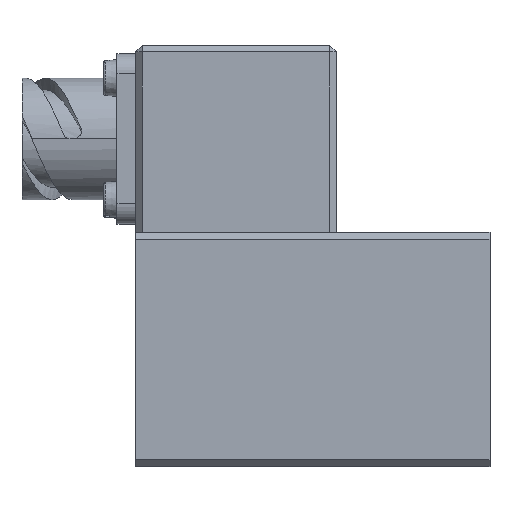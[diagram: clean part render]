
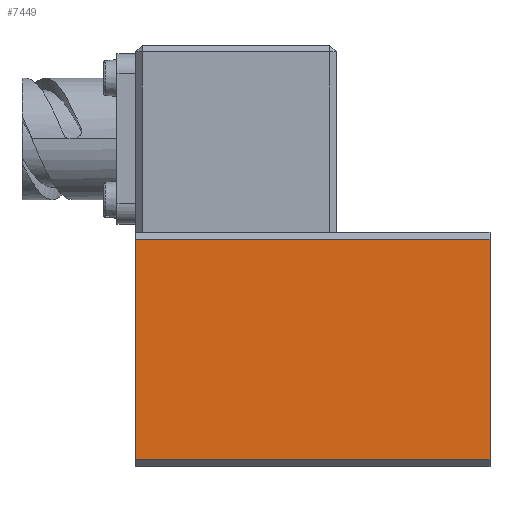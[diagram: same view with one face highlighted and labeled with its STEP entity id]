
A CAD part, top view. The second image highlights one B-rep face of the part: STEP entity #7449.
In plain terms, the highlighted planar face has unit normal (0, 0, 1).
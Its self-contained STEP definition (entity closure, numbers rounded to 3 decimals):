
#557 = ORIENTED_EDGE ( 'NONE', *, *, #9774, .T. ) ;
#818 = VECTOR ( 'NONE', #11657, 1000. ) ;
#907 = LINE ( 'NONE', #12213, #12432 ) ;
#2209 = VERTEX_POINT ( 'NONE', #9713 ) ;
#2232 = VECTOR ( 'NONE', #5881, 1000. ) ;
#2654 = EDGE_CURVE ( 'NONE', #5778, #5017, #12692, .T. ) ;
#2664 = DIRECTION ( 'NONE',  ( 1., 0., 0. ) ) ;
#4207 = EDGE_CURVE ( 'NONE', #8122, #5778, #14133, .T. ) ;
#4851 = ORIENTED_EDGE ( 'NONE', *, *, #4207, .T. ) ;
#5017 = VERTEX_POINT ( 'NONE', #12886 ) ;
#5539 = EDGE_LOOP ( 'NONE', ( #7117, #557, #11001, #4851 ) ) ;
#5546 = LINE ( 'NONE', #9643, #11474 ) ;
#5778 = VERTEX_POINT ( 'NONE', #8491 ) ;
#5881 = DIRECTION ( 'NONE',  ( -1., 0., 0. ) ) ;
#6249 = EDGE_CURVE ( 'NONE', #8122, #2209, #907, .T. ) ;
#7117 = ORIENTED_EDGE ( 'NONE', *, *, #2654, .T. ) ;
#7449 = ADVANCED_FACE ( 'NONE', ( #8093 ), #13405, .F. ) ;
#7702 = CARTESIAN_POINT ( 'NONE',  ( 53., 16.5, 17.5 ) ) ;
#8093 = FACE_OUTER_BOUND ( 'NONE', #5539, .T. ) ;
#8122 = VERTEX_POINT ( 'NONE', #7702 ) ;
#8491 = CARTESIAN_POINT ( 'NONE',  ( 0., 16.5, 17.5 ) ) ;
#8857 = DIRECTION ( 'NONE',  ( 0., -1., 0. ) ) ;
#8981 = CARTESIAN_POINT ( 'NONE',  ( 53., 16.5, 17.5 ) ) ;
#9643 = CARTESIAN_POINT ( 'NONE',  ( 53., -16.5, 17.5 ) ) ;
#9713 = CARTESIAN_POINT ( 'NONE',  ( 53., -16.5, 17.5 ) ) ;
#9774 = EDGE_CURVE ( 'NONE', #5017, #2209, #5546, .T. ) ;
#11001 = ORIENTED_EDGE ( 'NONE', *, *, #6249, .F. ) ;
#11474 = VECTOR ( 'NONE', #2664, 1000. ) ;
#11657 = DIRECTION ( 'NONE',  ( 0., -1., 0. ) ) ;
#11676 = CARTESIAN_POINT ( 'NONE',  ( 0., -17.5, 17.5 ) ) ;
#12213 = CARTESIAN_POINT ( 'NONE',  ( 53., -17.5, 17.5 ) ) ;
#12432 = VECTOR ( 'NONE', #8857, 1000. ) ;
#12692 = LINE ( 'NONE', #11676, #818 ) ;
#12886 = CARTESIAN_POINT ( 'NONE',  ( 0., -16.5, 17.5 ) ) ;
#12938 = DIRECTION ( 'NONE',  ( -1., 0., 0. ) ) ;
#12950 = DIRECTION ( 'NONE',  ( 0., 0., -1. ) ) ;
#12955 = CARTESIAN_POINT ( 'NONE',  ( 53., -17.5, 17.5 ) ) ;
#13385 = AXIS2_PLACEMENT_3D ( 'NONE', #12955, #12950, #12938 ) ;
#13405 = PLANE ( 'NONE',  #13385 ) ;
#14133 = LINE ( 'NONE', #8981, #2232 ) ;
